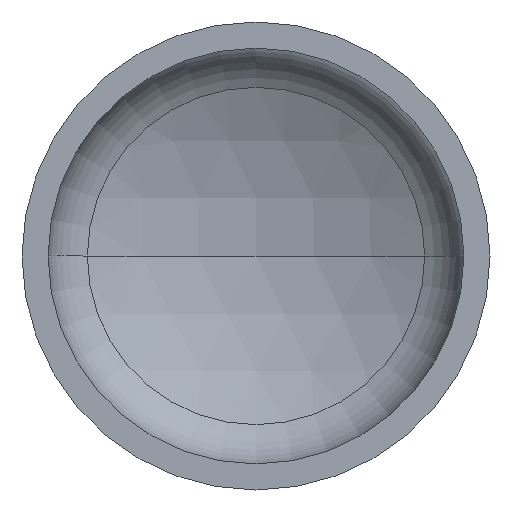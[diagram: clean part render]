
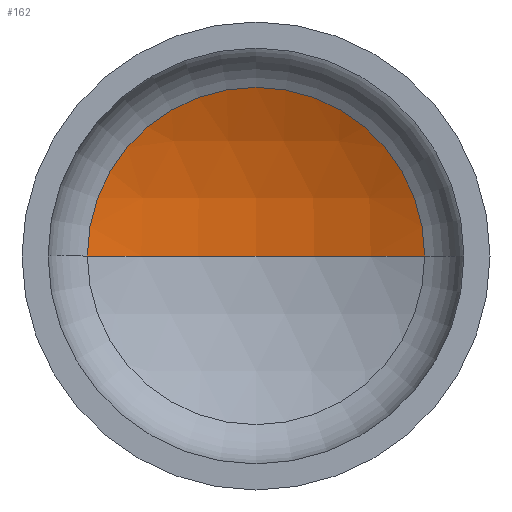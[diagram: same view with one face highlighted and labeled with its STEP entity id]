
A CAD part, front view. The second image highlights one B-rep face of the part: STEP entity #162.
In plain terms, the highlighted spherical face has radius 1520 mm.
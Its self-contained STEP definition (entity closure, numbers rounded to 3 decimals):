
#4 = CARTESIAN_POINT ( 'NONE',  ( 0., -1023.173, 0. ) ) ;
#6 = EDGE_LOOP ( 'NONE', ( #131, #127, #68 ) ) ;
#16 = AXIS2_PLACEMENT_3D ( 'NONE', #218, #123, #379 ) ;
#17 = AXIS2_PLACEMENT_3D ( 'NONE', #240, #401, #187 ) ;
#25 = VERTEX_POINT ( 'NONE', #244 ) ;
#27 = AXIS2_PLACEMENT_3D ( 'NONE', #155, #156, #196 ) ;
#31 = DIRECTION ( 'NONE',  ( -1., 0., 0. ) ) ;
#36 = VERTEX_POINT ( 'NONE', #245 ) ;
#48 = AXIS2_PLACEMENT_3D ( 'NONE', #4, #193, #31 ) ;
#68 = ORIENTED_EDGE ( 'NONE', *, *, #339, .T. ) ;
#106 = VERTEX_POINT ( 'NONE', #175 ) ;
#123 = DIRECTION ( 'NONE',  ( 0., 0., 1. ) ) ;
#127 = ORIENTED_EDGE ( 'NONE', *, *, #348, .T. ) ;
#131 = ORIENTED_EDGE ( 'NONE', *, *, #353, .F. ) ;
#155 = CARTESIAN_POINT ( 'NONE',  ( 0., 333.919, 0. ) ) ;
#156 = DIRECTION ( 'NONE',  ( 0., -1., 0. ) ) ;
#162 = ADVANCED_FACE ( 'NONE', ( #411 ), #166, .F. ) ;
#166 = SPHERICAL_SURFACE ( 'NONE', #48, 1520. ) ;
#175 = CARTESIAN_POINT ( 'NONE',  ( 684.618, 333.919, 0. ) ) ;
#187 = DIRECTION ( 'NONE',  ( -1., 0., 0. ) ) ;
#193 = DIRECTION ( 'NONE',  ( 0., 0., -1. ) ) ;
#196 = DIRECTION ( 'NONE',  ( 1., 0., 0. ) ) ;
#218 = CARTESIAN_POINT ( 'NONE',  ( 0., -1023.173, 0. ) ) ;
#240 = CARTESIAN_POINT ( 'NONE',  ( 0., -1023.173, 0. ) ) ;
#244 = CARTESIAN_POINT ( 'NONE',  ( 0., 496.827, 0. ) ) ;
#245 = CARTESIAN_POINT ( 'NONE',  ( -684.618, 333.919, 0. ) ) ;
#270 = CIRCLE ( 'NONE', #17, 1520. ) ;
#325 = CIRCLE ( 'NONE', #16, 1520. ) ;
#329 = CIRCLE ( 'NONE', #27, 684.618 ) ;
#339 = EDGE_CURVE ( 'NONE', #106, #36, #329, .T. ) ;
#348 = EDGE_CURVE ( 'NONE', #25, #106, #270, .T. ) ;
#353 = EDGE_CURVE ( 'NONE', #25, #36, #325, .T. ) ;
#379 = DIRECTION ( 'NONE',  ( 1., 0., 0. ) ) ;
#401 = DIRECTION ( 'NONE',  ( 0., 0., -1. ) ) ;
#411 = FACE_OUTER_BOUND ( 'NONE', #6, .T. ) ;
